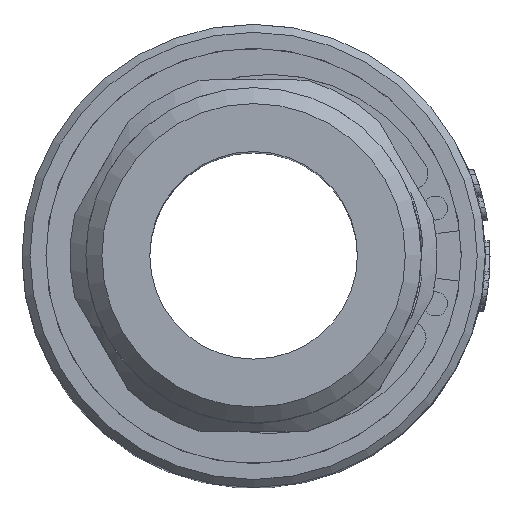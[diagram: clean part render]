
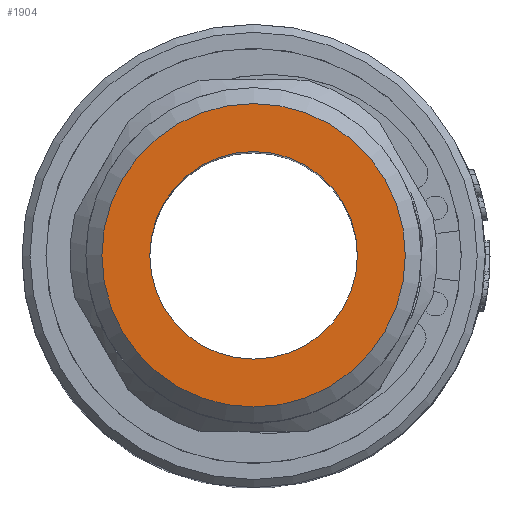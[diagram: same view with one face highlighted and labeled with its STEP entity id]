
A CAD part, top view. The second image highlights one B-rep face of the part: STEP entity #1904.
In plain terms, the highlighted planar face has unit normal (0, 0, 1).
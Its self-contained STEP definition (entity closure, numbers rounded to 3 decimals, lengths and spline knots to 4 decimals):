
#218=FACE_BOUND('',#4386,.T.);
#219=FACE_BOUND('',#4387,.T.);
#451=CIRCLE('',#20277,6.5);
#468=CIRCLE('',#20302,9.5);
#1904=ADVANCED_FACE('',(#218,#219),#2494,.T.);
#2494=PLANE('',#20304);
#4386=EDGE_LOOP('',(#9711));
#4387=EDGE_LOOP('',(#9712));
#9711=ORIENTED_EDGE('',*,*,#16061,.T.);
#9712=ORIENTED_EDGE('',*,*,#16080,.T.);
#13354=VERTEX_POINT('',#38418);
#13372=VERTEX_POINT('',#38463);
#16061=EDGE_CURVE('',#13354,#13354,#451,.T.);
#16080=EDGE_CURVE('',#13372,#13372,#468,.T.);
#20277=AXIS2_PLACEMENT_3D('',#38417,#22028,#22029);
#20302=AXIS2_PLACEMENT_3D('',#38462,#22080,#22081);
#20304=AXIS2_PLACEMENT_3D('',#38465,#22084,#22085);
#22028=DIRECTION('',(0.,0.,-1.));
#22029=DIRECTION('',(1.,0.,0.));
#22080=DIRECTION('',(0.,0.,1.));
#22081=DIRECTION('',(1.,0.,0.));
#22084=DIRECTION('',(0.,0.,1.));
#22085=DIRECTION('',(1.,0.,0.));
#38417=CARTESIAN_POINT('',(0.,0.,62.));
#38418=CARTESIAN_POINT('',(6.5,0.,62.));
#38462=CARTESIAN_POINT('',(0.,0.,62.));
#38463=CARTESIAN_POINT('',(9.5,0.,62.));
#38465=CARTESIAN_POINT('',(0.,0.,62.));
